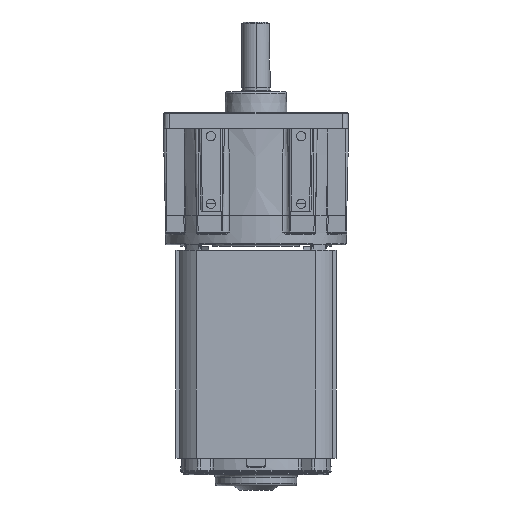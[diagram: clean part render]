
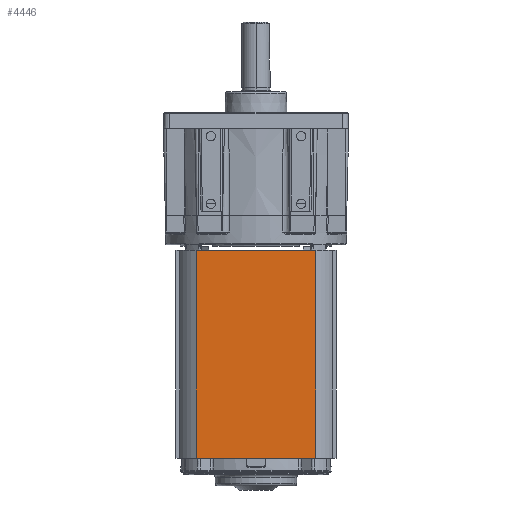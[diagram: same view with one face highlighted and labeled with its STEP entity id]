
A CAD part, front view. The second image highlights one B-rep face of the part: STEP entity #4446.
In plain terms, the highlighted planar face has unit normal (0, -1, 0).
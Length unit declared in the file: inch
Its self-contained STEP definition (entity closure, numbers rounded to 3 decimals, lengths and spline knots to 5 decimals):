
#4437 = VERTEX_POINT ( 'NONE', #31144 ) ;
#4443 = VERTEX_POINT ( 'NONE', #31134 ) ;
#4445 = EDGE_CURVE ( 'NONE', #4443, #4437, #31133, .T. ) ;
#4446 = ADVANCED_FACE ( 'NONE', ( #31129 ), #31128, .T. ) ;
#4447 = EDGE_LOOP ( 'NONE', ( #4504, #4507, #4508, #4511 ) ) ;
#4504 = ORIENTED_EDGE ( 'NONE', *, *, #4505, .F. ) ;
#4505 = EDGE_CURVE ( 'NONE', #4437, #4506, #31270, .T. ) ;
#4506 = VERTEX_POINT ( 'NONE', #31266 ) ;
#4507 = ORIENTED_EDGE ( 'NONE', *, *, #4445, .F. ) ;
#4508 = ORIENTED_EDGE ( 'NONE', *, *, #4509, .T. ) ;
#4509 = EDGE_CURVE ( 'NONE', #4443, #4510, #31265, .T. ) ;
#4510 = VERTEX_POINT ( 'NONE', #31261 ) ;
#4511 = ORIENTED_EDGE ( 'NONE', *, *, #4512, .T. ) ;
#4512 = EDGE_CURVE ( 'NONE', #4510, #4506, #31260, .T. ) ;
#31124 = DIRECTION ( 'NONE',  ( 0., 0., -1. ) ) ;
#31125 = DIRECTION ( 'NONE',  ( 0., -1., 0. ) ) ;
#31126 = CARTESIAN_POINT ( 'NONE',  ( -1.325, -1.7765, -7.6668 ) ) ;
#31127 = AXIS2_PLACEMENT_3D ( 'NONE', #31126, #31125, #31124 ) ;
#31128 = PLANE ( 'NONE',  #31127 ) ;
#31129 = FACE_OUTER_BOUND ( 'NONE', #4447, .T. ) ;
#31130 = DIRECTION ( 'NONE',  ( 0., 0., 1. ) ) ;
#31131 = VECTOR ( 'NONE', #31130, 39.37008 ) ;
#31132 = CARTESIAN_POINT ( 'NONE',  ( -1.325, -1.7765, -7.6668 ) ) ;
#31133 = LINE ( 'NONE', #31132, #31131 ) ;
#31134 = CARTESIAN_POINT ( 'NONE',  ( -1.325, -1.7765, -7.6668 ) ) ;
#31144 = CARTESIAN_POINT ( 'NONE',  ( -1.325, -1.7765, -3.0618 ) ) ;
#31257 = DIRECTION ( 'NONE',  ( 0., 0., 1. ) ) ;
#31258 = VECTOR ( 'NONE', #31257, 39.37008 ) ;
#31259 = CARTESIAN_POINT ( 'NONE',  ( 1.325, -1.7765, -7.6668 ) ) ;
#31260 = LINE ( 'NONE', #31259, #31258 ) ;
#31261 = CARTESIAN_POINT ( 'NONE',  ( 1.325, -1.7765, -7.6668 ) ) ;
#31262 = DIRECTION ( 'NONE',  ( 1., 0., 0. ) ) ;
#31263 = VECTOR ( 'NONE', #31262, 39.37008 ) ;
#31264 = CARTESIAN_POINT ( 'NONE',  ( -1.325, -1.7765, -7.6668 ) ) ;
#31265 = LINE ( 'NONE', #31264, #31263 ) ;
#31266 = CARTESIAN_POINT ( 'NONE',  ( 1.325, -1.7765, -3.0618 ) ) ;
#31267 = DIRECTION ( 'NONE',  ( 1., 0., 0. ) ) ;
#31268 = VECTOR ( 'NONE', #31267, 39.37008 ) ;
#31269 = CARTESIAN_POINT ( 'NONE',  ( -1.325, -1.7765, -3.0618 ) ) ;
#31270 = LINE ( 'NONE', #31269, #31268 ) ;
